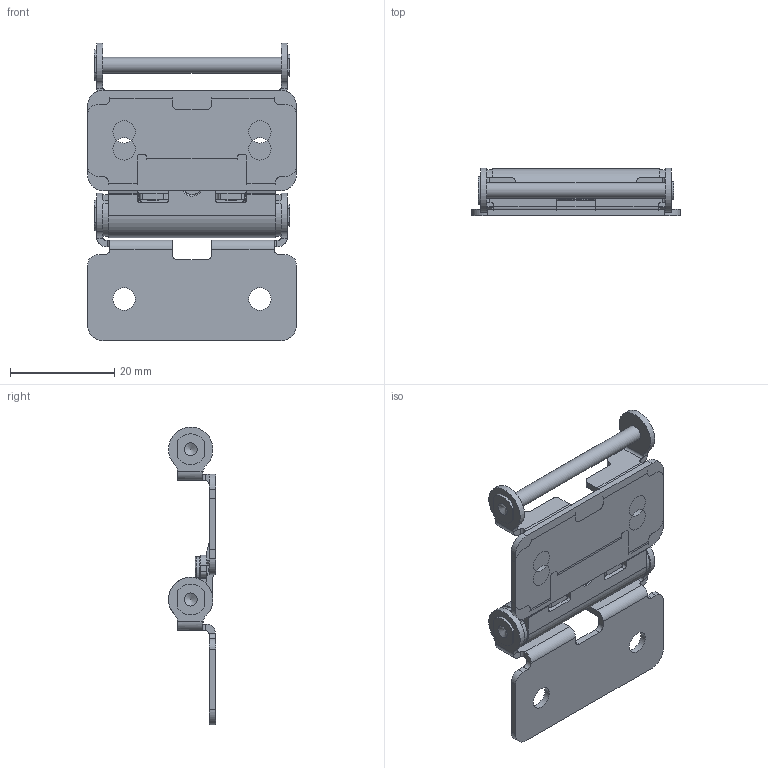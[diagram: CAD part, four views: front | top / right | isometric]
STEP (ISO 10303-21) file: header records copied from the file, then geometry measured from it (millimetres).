
FILE_DESCRIPTION( ( 'Unknown' ), '1' );
FILE_NAME( 'N:/HoKon Zeichnungen/_Kataloge Fremd/Sugatsune/Modelle/HG-TS03/STEP/150.hg_ts07.30.stp', 'Unknown', ( 'Unknown' ), ( 'Unknown' ), 'PSStep 14.0', 'Unknown', ' ' );
FILE_SCHEMA( ( 'AUTOMOTIVE_DESIGN { 1 0 10303 214 1 1 1 1 }' ) );
Length unit declared in the file: millimetre
Products named in the file (3): Assem1; HG_TS07_body_B; HG_TS07_body_A
Bounding box: 40 x 9 x 56.99 mm (x, y, z)
Volume: 8524.9 mm3; surface area: 11078 mm2
Topology: 4 solids, 4 shells, 528 faces, 1556 edges, 1024 vertices
Faces by surface type: plane 252, cylinder 244, torus 14, bspline 8, cone 6, sphere 4
Full cylindrical faces by diameter (mm): 3 x2, 4.3 x8, 5 x2
Entity records: 11164 total; most frequent: CARTESIAN_POINT 1869, ORIENTED_EDGE 1514, DIRECTION 1506, EDGE_CURVE 757, AXIS2_PLACEMENT_3D 522, VERTEX_POINT 507, LINE 462, VECTOR 462
